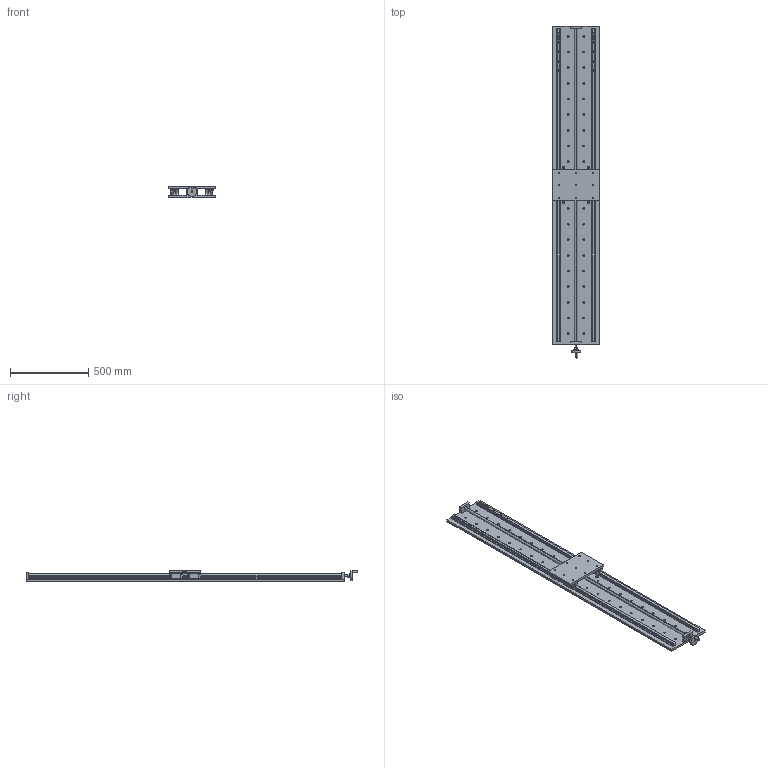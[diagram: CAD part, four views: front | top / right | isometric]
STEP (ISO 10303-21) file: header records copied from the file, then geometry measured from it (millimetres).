
FILE_DESCRIPTION (( 'STEP AP214' ), '1' );
FILE_NAME ('PT300-1800.STEP', '2022-09-18T06:40:46', ( '' ), ( '' ), 'SwSTEP 2.0', 'SolidWorks 2017', '' );
FILE_SCHEMA (( 'AUTOMOTIVE_DESIGN' ));
Length unit declared in the file: millimetre
Products named in the file (12): 忒謫; 標踡輸; PT300-1800; M6H; HGH25C__X2_53F35C01_X0__temp; HGH25CA2R300Z0C_GW202204023669; 標踡; HGR25_temp-1800; 34320001; 醱啣; HGH25C__X2_5DE65C01_X0__temp; 菁啣-1800
Assembly tree (12 placements, depth 3):
  PT300-1800
    菁啣-1800
    醱啣
    HGH25CA2R300Z0C_GW202204023669  x2
      HGR25_temp-1800
      HGH25C__X2_53F35C01_X0__temp
      M6H
      HGH25C__X2_5DE65C01_X0__temp
      34320001
    標踡
      標踡輸
      忒謫
Bounding box: 300 x 2122.1 x 70.06 mm (x, y, z)
Volume: 12923978.4 mm3; surface area: 2097635.8 mm2
Topology: 31 solids, 33 shells, 3169 faces, 8830 edges, 5830 vertices
Faces by surface type: plane 2017, cylinder 886, bspline 202, cone 56, torus 8
Entity records: 77893 total; most frequent: CARTESIAN_POINT 15506, ORIENTED_EDGE 10000, DIRECTION 9240, EDGE_CURVE 5000, VECTOR 3510, LINE 3510, VERTEX_POINT 3319, AXIS2_PLACEMENT_3D 2865
